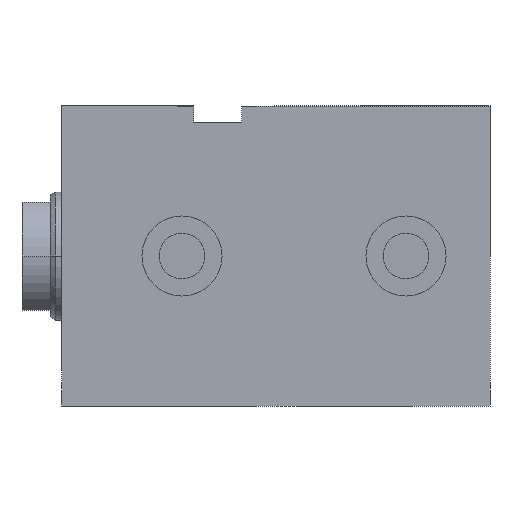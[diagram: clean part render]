
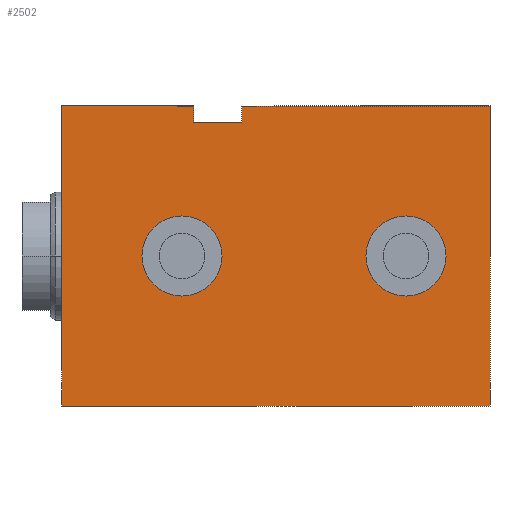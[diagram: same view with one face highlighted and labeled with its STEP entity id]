
A CAD part, left-side view. The second image highlights one B-rep face of the part: STEP entity #2502.
In plain terms, the highlighted planar face has unit normal (-1, 0, 0).
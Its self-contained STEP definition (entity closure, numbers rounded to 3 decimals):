
#5 = ORIENTED_EDGE ( 'NONE', *, *, #504, .T. ) ;
#8 = CARTESIAN_POINT ( 'NONE',  ( -50., 74., 33.5 ) ) ;
#22 = CARTESIAN_POINT ( 'NONE',  ( -50., 77., 0. ) ) ;
#27 = DIRECTION ( 'NONE',  ( 0., -1., 0. ) ) ;
#43 = EDGE_CURVE ( 'NONE', #2837, #1376, #1363, .T. ) ;
#57 = VECTOR ( 'NONE', #994, 1000. ) ;
#73 = ORIENTED_EDGE ( 'NONE', *, *, #397, .F. ) ;
#78 = VERTEX_POINT ( 'NONE', #2483 ) ;
#115 = VERTEX_POINT ( 'NONE', #2264 ) ;
#131 = VECTOR ( 'NONE', #2298, 1000. ) ;
#165 = FACE_BOUND ( 'NONE', #1824, .T. ) ;
#208 = LINE ( 'NONE', #2842, #131 ) ;
#283 = LINE ( 'NONE', #2532, #2579 ) ;
#295 = DIRECTION ( 'NONE',  ( 0., 0., 1. ) ) ;
#307 = DIRECTION ( 'NONE',  ( -1., 0., 0. ) ) ;
#323 = EDGE_CURVE ( 'NONE', #2567, #1263, #1426, .T. ) ;
#397 = EDGE_CURVE ( 'NONE', #2780, #1376, #1224, .T. ) ;
#463 = CARTESIAN_POINT ( 'NONE',  ( -50., 21., 0. ) ) ;
#465 = EDGE_CURVE ( 'NONE', #2567, #2837, #1530, .T. ) ;
#482 = EDGE_CURVE ( 'NONE', #1092, #2780, #283, .T. ) ;
#489 = EDGE_CURVE ( 'NONE', #115, #1092, #208, .T. ) ;
#502 = CARTESIAN_POINT ( 'NONE',  ( -50., 21., -10. ) ) ;
#504 = EDGE_CURVE ( 'NONE', #115, #1107, #1899, .T. ) ;
#508 = EDGE_CURVE ( 'NONE', #1263, #1107, #1393, .T. ) ;
#523 = EDGE_CURVE ( 'NONE', #1100, #1586, #2486, .T. ) ;
#527 = EDGE_CURVE ( 'NONE', #78, #2087, #2417, .T. ) ;
#559 = DIRECTION ( 'NONE',  ( 0., 0., 1. ) ) ;
#641 = DIRECTION ( 'NONE',  ( -1., 0., 0. ) ) ;
#646 = ORIENTED_EDGE ( 'NONE', *, *, #489, .F. ) ;
#666 = DIRECTION ( 'NONE',  ( 0., -1., 0. ) ) ;
#710 = VECTOR ( 'NONE', #1208, 1000. ) ;
#782 = CARTESIAN_POINT ( 'NONE',  ( -50., 82., 37.5 ) ) ;
#823 = CARTESIAN_POINT ( 'NONE',  ( -50., 0., -37.5 ) ) ;
#885 = VECTOR ( 'NONE', #27, 1000. ) ;
#969 = CARTESIAN_POINT ( 'NONE',  ( -50., 82., -37.5 ) ) ;
#994 = DIRECTION ( 'NONE',  ( 0., 0., 1. ) ) ;
#1092 = VERTEX_POINT ( 'NONE', #1915 ) ;
#1100 = VERTEX_POINT ( 'NONE', #1911 ) ;
#1107 = VERTEX_POINT ( 'NONE', #1939 ) ;
#1131 = ORIENTED_EDGE ( 'NONE', *, *, #527, .F. ) ;
#1202 = ORIENTED_EDGE ( 'NONE', *, *, #465, .T. ) ;
#1208 = DIRECTION ( 'NONE',  ( 0., -1., 0. ) ) ;
#1224 = LINE ( 'NONE', #782, #2944 ) ;
#1250 = CARTESIAN_POINT ( 'NONE',  ( -50., 82., 37.5 ) ) ;
#1263 = VERTEX_POINT ( 'NONE', #2103 ) ;
#1318 = CARTESIAN_POINT ( 'NONE',  ( -50., 107., -37.5 ) ) ;
#1363 = LINE ( 'NONE', #2737, #2457 ) ;
#1376 = VERTEX_POINT ( 'NONE', #2165 ) ;
#1393 = LINE ( 'NONE', #1250, #710 ) ;
#1426 = LINE ( 'NONE', #1596, #2538 ) ;
#1530 = LINE ( 'NONE', #969, #885 ) ;
#1557 = FACE_BOUND ( 'NONE', #3036, .T. ) ;
#1581 = AXIS2_PLACEMENT_3D ( 'NONE', #2895, #2905, #3014 ) ;
#1586 = VERTEX_POINT ( 'NONE', #502 ) ;
#1596 = CARTESIAN_POINT ( 'NONE',  ( -50., 107., -37.5 ) ) ;
#1619 = DIRECTION ( 'NONE',  ( 0., 0., 1. ) ) ;
#1696 = FACE_OUTER_BOUND ( 'NONE', #2265, .T. ) ;
#1716 = ORIENTED_EDGE ( 'NONE', *, *, #2152, .F. ) ;
#1782 = ORIENTED_EDGE ( 'NONE', *, *, #323, .F. ) ;
#1824 = EDGE_LOOP ( 'NONE', ( #2296, #1716 ) ) ;
#1850 = ORIENTED_EDGE ( 'NONE', *, *, #482, .F. ) ;
#1898 = AXIS2_PLACEMENT_3D ( 'NONE', #2653, #2638, #2670 ) ;
#1899 = LINE ( 'NONE', #8, #57 ) ;
#1911 = CARTESIAN_POINT ( 'NONE',  ( -50., 21., 10. ) ) ;
#1915 = CARTESIAN_POINT ( 'NONE',  ( -50., 62., 33.5 ) ) ;
#1939 = CARTESIAN_POINT ( 'NONE',  ( -50., 74., 37.5 ) ) ;
#2087 = VERTEX_POINT ( 'NONE', #2256 ) ;
#2103 = CARTESIAN_POINT ( 'NONE',  ( -50., 107., 37.5 ) ) ;
#2152 = EDGE_CURVE ( 'NONE', #1586, #1100, #2412, .T. ) ;
#2165 = CARTESIAN_POINT ( 'NONE',  ( -50., 0., 37.5 ) ) ;
#2256 = CARTESIAN_POINT ( 'NONE',  ( -50., 77., -10. ) ) ;
#2264 = CARTESIAN_POINT ( 'NONE',  ( -50., 74., 33.5 ) ) ;
#2265 = EDGE_LOOP ( 'NONE', ( #73, #1850, #646, #5, #2362, #1782, #1202, #2990 ) ) ;
#2296 = ORIENTED_EDGE ( 'NONE', *, *, #523, .F. ) ;
#2298 = DIRECTION ( 'NONE',  ( 0., -1., 0. ) ) ;
#2312 = CARTESIAN_POINT ( 'NONE',  ( -50., 21., 0. ) ) ;
#2320 = DIRECTION ( 'NONE',  ( -1., 0., 0. ) ) ;
#2321 = DIRECTION ( 'NONE',  ( 0., 0., 1. ) ) ;
#2362 = ORIENTED_EDGE ( 'NONE', *, *, #508, .F. ) ;
#2391 = DIRECTION ( 'NONE',  ( 0., 0., 1. ) ) ;
#2412 = CIRCLE ( 'NONE', #2570, 10. ) ;
#2417 = CIRCLE ( 'NONE', #3023, 10. ) ;
#2457 = VECTOR ( 'NONE', #3030, 1000. ) ;
#2483 = CARTESIAN_POINT ( 'NONE',  ( -50., 77., 10. ) ) ;
#2486 = CIRCLE ( 'NONE', #2865, 10. ) ;
#2502 = ADVANCED_FACE ( 'NONE', ( #1696, #165, #1557 ), #2666, .F. ) ;
#2532 = CARTESIAN_POINT ( 'NONE',  ( -50., 62., 33.5 ) ) ;
#2538 = VECTOR ( 'NONE', #1619, 1000. ) ;
#2566 = CARTESIAN_POINT ( 'NONE',  ( -50., 62., 37.5 ) ) ;
#2567 = VERTEX_POINT ( 'NONE', #1318 ) ;
#2570 = AXIS2_PLACEMENT_3D ( 'NONE', #2312, #2320, #2321 ) ;
#2579 = VECTOR ( 'NONE', #2391, 1000. ) ;
#2638 = DIRECTION ( 'NONE',  ( 1., 0., 0. ) ) ;
#2653 = CARTESIAN_POINT ( 'NONE',  ( -50., 82., -37.5 ) ) ;
#2666 = PLANE ( 'NONE',  #1898 ) ;
#2670 = DIRECTION ( 'NONE',  ( 0., 0., -1. ) ) ;
#2703 = CIRCLE ( 'NONE', #1581, 10. ) ;
#2737 = CARTESIAN_POINT ( 'NONE',  ( -50., 0., -37.5 ) ) ;
#2780 = VERTEX_POINT ( 'NONE', #2566 ) ;
#2788 = EDGE_CURVE ( 'NONE', #2087, #78, #2703, .T. ) ;
#2837 = VERTEX_POINT ( 'NONE', #823 ) ;
#2842 = CARTESIAN_POINT ( 'NONE',  ( -50., 74., 33.5 ) ) ;
#2865 = AXIS2_PLACEMENT_3D ( 'NONE', #463, #307, #295 ) ;
#2895 = CARTESIAN_POINT ( 'NONE',  ( -50., 77., 0. ) ) ;
#2905 = DIRECTION ( 'NONE',  ( -1., 0., 0. ) ) ;
#2923 = ORIENTED_EDGE ( 'NONE', *, *, #2788, .F. ) ;
#2944 = VECTOR ( 'NONE', #666, 1000. ) ;
#2990 = ORIENTED_EDGE ( 'NONE', *, *, #43, .T. ) ;
#3014 = DIRECTION ( 'NONE',  ( 0., 0., 1. ) ) ;
#3023 = AXIS2_PLACEMENT_3D ( 'NONE', #22, #641, #559 ) ;
#3030 = DIRECTION ( 'NONE',  ( 0., 0., 1. ) ) ;
#3036 = EDGE_LOOP ( 'NONE', ( #1131, #2923 ) ) ;
